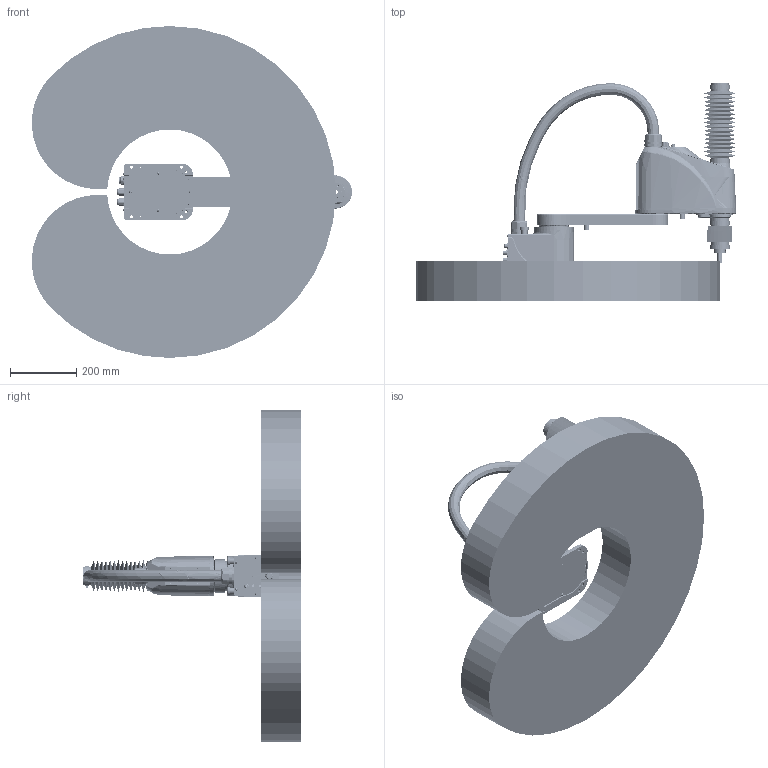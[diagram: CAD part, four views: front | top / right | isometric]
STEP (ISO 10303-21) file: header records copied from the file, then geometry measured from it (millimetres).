
FILE_DESCRIPTION (( 'STEP AP203' ), '1' );
FILE_NAME ('TRH002-500-120-C.STEP', '2025-01-15T11:43:56', ( 'Windows User' ), ( 'P R C' ), 'SwSTEP 2.0', 'SolidWorks 2023', '' );
FILE_SCHEMA (( 'CONFIG_CONTROL_DESIGN' ));
Products named in the file (7): 复件 500C_3^TRH002-500-120-C可拖动机器人（SW2023）; TRH002-500-120-C; 复件 500C_1^TRH002-500-120-C可拖动机器人（SW2023）_TRH002-400-150-C可拖动机器人（SW2023）; 复件500C_5^TRH002-500-120-C可拖动机器人（SW2023）; 复件 TRH002_Space^TRH002-500-120-C可拖动机器人（SW2023）; 复件 500C_2^TRH002-500-120-C可拖动机器人（SW2023）; 复件 500C_4^TRH002-500-120-C可拖动机器人（SW2023）
Assembly tree (6 placements, depth 2):
  TRH002-500-120-C
    复件 500C_1^TRH002-500-120-C可拖动机器人（SW2023）_TRH002-400-150-C可拖动机器人（SW2023）
    复件 500C_2^TRH002-500-120-C可拖动机器人（SW2023）
    复件 500C_3^TRH002-500-120-C可拖动机器人（SW2023）
    复件500C_5^TRH002-500-120-C可拖动机器人（SW2023）
    复件 500C_4^TRH002-500-120-C可拖动机器人（SW2023）
    复件 TRH002_Space^TRH002-500-120-C可拖动机器人（SW2023）
Bounding box: 964.94 x 656.71 x 1000 mm (x, y, z)
Volume: 75539523.3 mm3; surface area: 3416974.7 mm2
Topology: 26 solids, 194 shells, 6892 faces, 18325 edges, 11756 vertices
Faces by surface type: plane 2958, cylinder 2365, cone 761, bspline 565, torus 221, sphere 22
Entity records: 263884 total; most frequent: CARTESIAN_POINT 93129, DIRECTION 35384, ORIENTED_EDGE 35260, EDGE_CURVE 18173, AXIS2_PLACEMENT_3D 12605, VERTEX_POINT 11756, LINE 10174, VECTOR 10174
